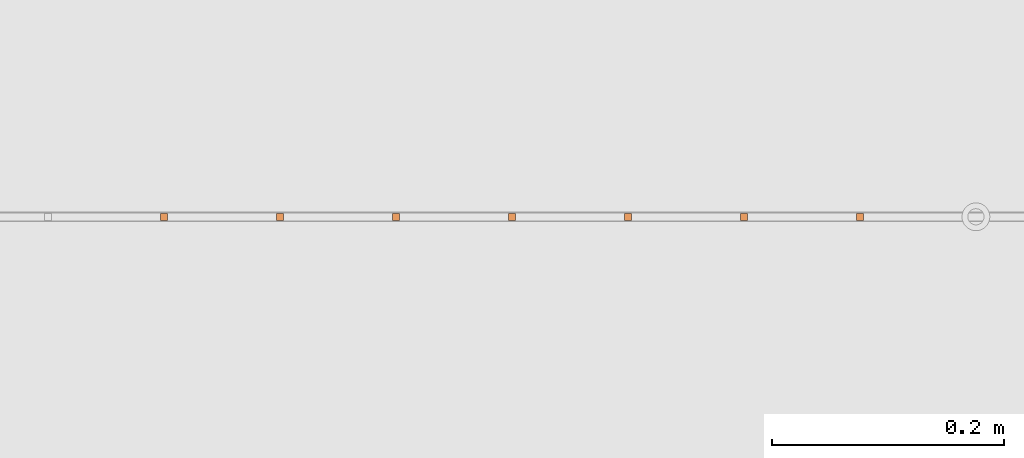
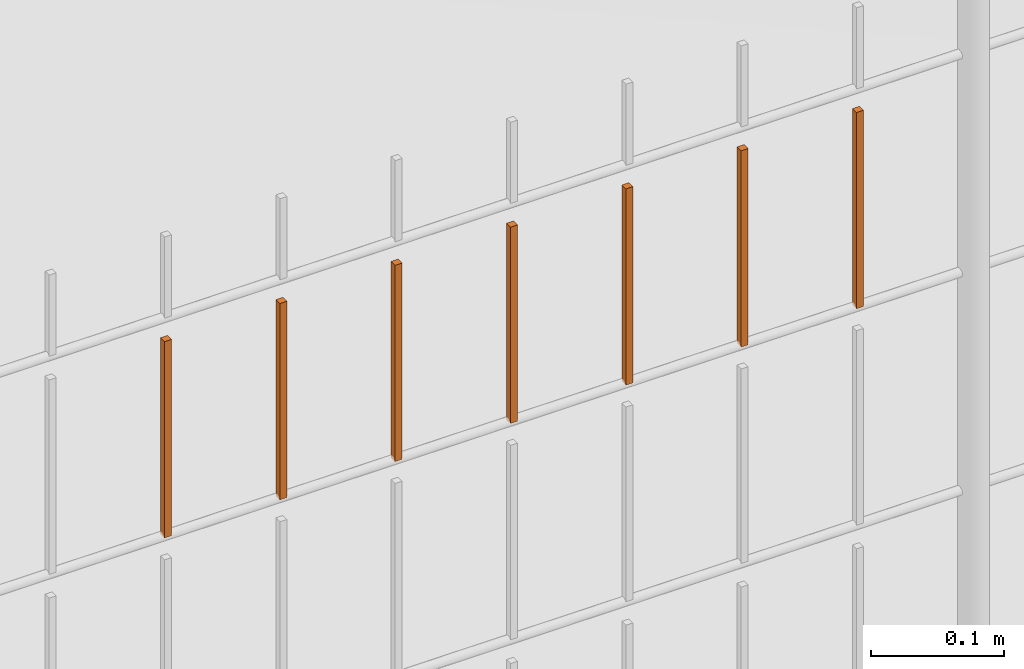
# One storey, part 244 of 1809: 7 proxies, 1 element without a shape of its own.
"""IFC2X3 building model written with IfcOpenShell, lengths in millimetres."""

from ifc_helpers import new_model, entity, si_unit, converted_unit, derived_unit, money_unit, direction, frame, origin_with_axes, place, context, subcontext, project, spatial, faceted_brep, source, transform, mapped, material, type_object, element, aggregate, save


model = new_model("IFC2X3")

# Units and contexts
model_context = context("Model", 3, precision=0.01, world=origin_with_axes(), true_north=direction((0.0, 1.0)))
body_context = subcontext(model_context, "Body", "Model", "MODEL_VIEW")
ifc_project = project(units=[si_unit("LENGTHUNIT", "METRE", prefix="MILLI"), si_unit("AREAUNIT", "SQUARE_METRE"), si_unit("VOLUMEUNIT", "CUBIC_METRE"), converted_unit("PLANEANGLEUNIT", "DEGREE", entity("IfcPlaneAngleMeasure", 0.0174532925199), si_unit("PLANEANGLEUNIT", "RADIAN"), dimensions=[0, 0, 0, 0, 0, 0, 0]), si_unit("SOLIDANGLEUNIT", "STERADIAN"), money_unit("EUR"), converted_unit("TIMEUNIT", "Year", entity("IfcTimeMeasure", 31556926.0), si_unit("TIMEUNIT", "SECOND"), dimensions=[0, 0, 1, 0, 0, 0, 0]), si_unit("MASSUNIT", "GRAM", prefix="KILO"), si_unit("THERMODYNAMICTEMPERATUREUNIT", "DEGREE_CELSIUS"), si_unit("LUMINOUSINTENSITYUNIT", "LUMEN"), si_unit("ENERGYUNIT", "JOULE", prefix="MEGA"), derived_unit("THERMALCONDUCTANCEUNIT", [(si_unit("POWERUNIT", "WATT"), 1), (si_unit("LENGTHUNIT", "METRE"), -1), (si_unit("THERMODYNAMICTEMPERATUREUNIT", "KELVIN"), -1)]), derived_unit("SPECIFICHEATCAPACITYUNIT", [(si_unit("ENERGYUNIT", "JOULE"), 1), (si_unit("MASSUNIT", "GRAM", prefix="KILO"), -1), (si_unit("THERMODYNAMICTEMPERATUREUNIT", "KELVIN"), -1)]), derived_unit("MASSDENSITYUNIT", [(si_unit("MASSUNIT", "GRAM", prefix="KILO"), 1), (si_unit("VOLUMEUNIT", "CUBIC_METRE"), -1)])], contexts=[model_context])

# Site, building, storey
site_placement = place(None, origin_with_axes())
site = spatial("IfcSite", under=ifc_project, at=site_placement, Name="Politse- ja Piirivalveameti ning Päästeameti ühishoone", CompositionType="ELEMENT")
building_placement = place(site_placement, origin_with_axes())
building = spatial("IfcBuilding", under=site, at=building_placement, Name="Politse- ja Piirivalveameti ning Päästeameti ühishoone", CompositionType="ELEMENT")
storey_placement = place(building_placement, origin_with_axes())
storey = spatial("IfcBuildingStorey", under=building, at=storey_placement, Name="Esimene korrus", CompositionType="ELEMENT", Elevation=0.0)

# Proxies
building_element_proxy_type_1 = type_object("IfcBuildingElementProxyType", Name="Railing Type", PredefinedType="NOTDEFINED")
proxy_1_placement = place(storey_placement, frame((-16775.8601056, 25156.7555964, 0.0), z_axis=(0.0, 0.0, 1.0), x_axis=(1.0, 0.0, 0.0)))
proxy_1 = element("IfcBuildingElementProxy", 1, at=proxy_1_placement, inside=storey, type_object=building_element_proxy_type_1, Name="KENNELI PIIRE")
ifc_material = material(Name="Teras - Konstruktsioon")
building_element_proxy_type_2 = type_object("IfcBuildingElementProxyType", Name="IfcBuildingElementProxy", PredefinedType="NOTDEFINED")
shared_shape = source(origin_with_axes(), body_context, "Body", "Brep", [
    faceted_brep([(3.0, 3.0, 0.0), (-3.0, 3.0, 0.0), (-3.0, 3.0, 180.000012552), (3.0, 3.0, 180.000012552), (3.0, -3.0, 0.0), (-3.0, -3.0, 0.0), (-3.0, -3.0, 180.000012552), (3.0, -3.0, 180.000012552)], [[[0, 1, 2, 3]], [[0, 4, 5, 1]], [[1, 5, 6, 2]], [[3, 2, 6, 7]], [[4, 0, 3, 7]], [[5, 4, 7, 6]]]),
])
proxy_2_placement = place(proxy_1_placement, frame((-3082.26655065, -16068.8402798, 2203.99998745), z_axis=(0.0, 0.0, 1.0), x_axis=(1.0, 0.0, 0.0)))
proxy_2 = element("IfcBuildingElementProxy", 2, at=proxy_2_placement, type_object=building_element_proxy_type_2, material=ifc_material, Name="BALUSTER - 001", context=body_context, shape_type="MappedRepresentation", body=[
    mapped(shared_shape, transform((0.0, 0.0, 0.0), x_axis=(0.0, -1.0, 0.0), y_axis=(1.0, 0.0, 0.0), z_axis=(0.0, 0.0, 1.0))),
])
proxy_3_placement = place(proxy_1_placement, frame((-2982.26655065, -16068.8402798, 2203.99998745), z_axis=(0.0, 0.0, 1.0), x_axis=(1.0, 0.0, 0.0)))
proxy_3 = element("IfcBuildingElementProxy", 3, at=proxy_3_placement, type_object=building_element_proxy_type_2, material=ifc_material, Name="BALUSTER - 001", context=body_context, shape_type="MappedRepresentation", body=[
    mapped(shared_shape, transform((0.0, 0.0, 0.0), x_axis=(0.0, -1.0, 0.0), y_axis=(1.0, 0.0, 0.0), z_axis=(0.0, 0.0, 1.0))),
])
proxy_4_placement = place(proxy_1_placement, frame((-2882.26655065, -16068.8402798, 2203.99998745), z_axis=(0.0, 0.0, 1.0), x_axis=(1.0, 0.0, 0.0)))
proxy_4 = element("IfcBuildingElementProxy", 4, at=proxy_4_placement, type_object=building_element_proxy_type_2, material=ifc_material, Name="BALUSTER - 001", context=body_context, shape_type="MappedRepresentation", body=[
    mapped(shared_shape, transform((0.0, 0.0, 0.0), x_axis=(0.0, -1.0, 0.0), y_axis=(1.0, 0.0, 0.0), z_axis=(0.0, 0.0, 1.0))),
])
proxy_5_placement = place(proxy_1_placement, frame((-2782.26655065, -16068.8402798, 2203.99998745), z_axis=(0.0, 0.0, 1.0), x_axis=(1.0, 0.0, 0.0)))
proxy_5 = element("IfcBuildingElementProxy", 5, at=proxy_5_placement, type_object=building_element_proxy_type_2, material=ifc_material, Name="BALUSTER - 001", context=body_context, shape_type="MappedRepresentation", body=[
    mapped(shared_shape, transform((0.0, 0.0, 0.0), x_axis=(0.0, -1.0, 0.0), y_axis=(1.0, 0.0, 0.0), z_axis=(0.0, 0.0, 1.0))),
])
proxy_6_placement = place(proxy_1_placement, frame((-2682.26655065, -16068.8402798, 2203.99998745), z_axis=(0.0, 0.0, 1.0), x_axis=(1.0, 0.0, 0.0)))
proxy_6 = element("IfcBuildingElementProxy", 6, at=proxy_6_placement, type_object=building_element_proxy_type_2, material=ifc_material, Name="BALUSTER - 001", context=body_context, shape_type="MappedRepresentation", body=[
    mapped(shared_shape, transform((0.0, 0.0, 0.0), x_axis=(0.0, -1.0, 0.0), y_axis=(1.0, 0.0, 0.0), z_axis=(0.0, 0.0, 1.0))),
])
proxy_7_placement = place(proxy_1_placement, frame((-2582.26655065, -16068.8402798, 2203.99998745), z_axis=(0.0, 0.0, 1.0), x_axis=(1.0, 0.0, 0.0)))
proxy_7 = element("IfcBuildingElementProxy", 7, at=proxy_7_placement, type_object=building_element_proxy_type_2, material=ifc_material, Name="BALUSTER - 001", context=body_context, shape_type="MappedRepresentation", body=[
    mapped(shared_shape, transform((0.0, 0.0, 0.0), x_axis=(0.0, -1.0, 0.0), y_axis=(1.0, 0.0, 0.0), z_axis=(0.0, 0.0, 1.0))),
])
proxy_8_placement = place(proxy_1_placement, frame((-2482.26655065, -16068.8402798, 2203.99998745), z_axis=(0.0, 0.0, 1.0), x_axis=(1.0, 0.0, 0.0)))
proxy_8 = element("IfcBuildingElementProxy", 8, at=proxy_8_placement, type_object=building_element_proxy_type_2, material=ifc_material, Name="BALUSTER - 001", context=body_context, shape_type="MappedRepresentation", body=[
    mapped(shared_shape, transform((0.0, 0.0, 0.0), x_axis=(0.0, -1.0, 0.0), y_axis=(1.0, 0.0, 0.0), z_axis=(0.0, 0.0, 1.0))),
])
aggregate(proxy_1, [proxy_2, proxy_3, proxy_4, proxy_5, proxy_6, proxy_7, proxy_8])

save(model, "model.ifc")
